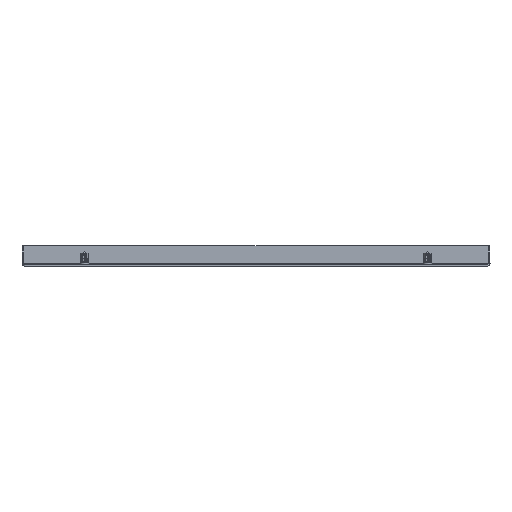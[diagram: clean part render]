
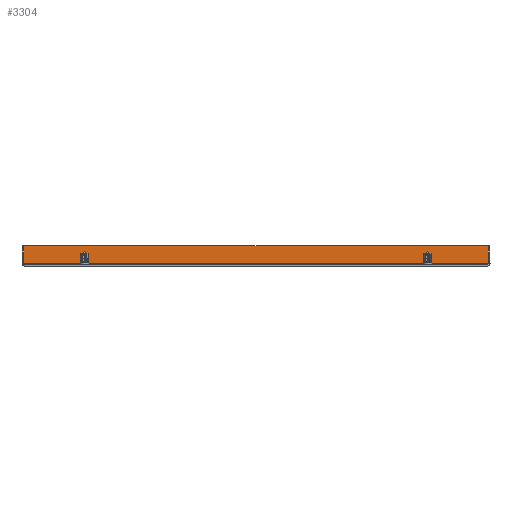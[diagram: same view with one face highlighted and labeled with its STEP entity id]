
A CAD part, front view. The second image highlights one B-rep face of the part: STEP entity #3304.
In plain terms, the highlighted planar face has unit normal (0, -1, 0).
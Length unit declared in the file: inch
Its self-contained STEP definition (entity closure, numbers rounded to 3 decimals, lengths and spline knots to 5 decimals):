
#114 = LINE ( 'NONE', #3682, #732 ) ;
#470 = LINE ( 'NONE', #2751, #621 ) ;
#621 = VECTOR ( 'NONE', #2912, 39.37008 ) ;
#696 = VECTOR ( 'NONE', #2407, 39.37008 ) ;
#732 = VECTOR ( 'NONE', #3801, 39.37008 ) ;
#783 = LINE ( 'NONE', #2417, #696 ) ;
#1050 = ORIENTED_EDGE ( 'NONE', *, *, #4587, .T. ) ;
#1053 = ORIENTED_EDGE ( 'NONE', *, *, #4290, .T. ) ;
#1054 = ORIENTED_EDGE ( 'NONE', *, *, #4885, .F. ) ;
#1059 = ORIENTED_EDGE ( 'NONE', *, *, #4635, .T. ) ;
#1581 = FACE_OUTER_BOUND ( 'NONE', #1690, .T. ) ;
#1690 = EDGE_LOOP ( 'NONE', ( #1050, #1053, #1054, #1059 ) ) ;
#2407 = DIRECTION ( 'NONE',  ( 1., 0., 0. ) ) ;
#2417 = CARTESIAN_POINT ( 'NONE',  ( -1.167, 31.735, -14.49732 ) ) ;
#2625 = CARTESIAN_POINT ( 'NONE',  ( -1.167, 31.735, 14.49732 ) ) ;
#2751 = CARTESIAN_POINT ( 'NONE',  ( -0.08, 31.735, -332.932 ) ) ;
#2912 = DIRECTION ( 'NONE',  ( 0., 0., 1. ) ) ;
#2998 = DIRECTION ( 'NONE',  ( -1., 0., 0. ) ) ;
#3304 = ADVANCED_FACE ( 'NONE', ( #1581 ), #5238, .T. ) ;
#3613 = CARTESIAN_POINT ( 'NONE',  ( -0.08, 31.735, 14.49732 ) ) ;
#3682 = CARTESIAN_POINT ( 'NONE',  ( -1.167, 31.735, -332.932 ) ) ;
#3801 = DIRECTION ( 'NONE',  ( 0., 0., 1. ) ) ;
#4117 = CARTESIAN_POINT ( 'NONE',  ( -1.167, 31.735, 14.49732 ) ) ;
#4173 = CARTESIAN_POINT ( 'NONE',  ( -0.08, 31.735, -14.49732 ) ) ;
#4175 = CARTESIAN_POINT ( 'NONE',  ( -1.167, 31.735, -14.49732 ) ) ;
#4290 = EDGE_CURVE ( 'NONE', #5244, #5595, #5770, .T. ) ;
#4587 = EDGE_CURVE ( 'NONE', #5543, #5244, #470, .T. ) ;
#4635 = EDGE_CURVE ( 'NONE', #5210, #5543, #783, .T. ) ;
#4647 = AXIS2_PLACEMENT_3D ( 'NONE', #5288, #5431, #5432 ) ;
#4885 = EDGE_CURVE ( 'NONE', #5210, #5595, #114, .T. ) ;
#5210 = VERTEX_POINT ( 'NONE', #4175 ) ;
#5238 = PLANE ( 'NONE',  #4647 ) ;
#5244 = VERTEX_POINT ( 'NONE', #3613 ) ;
#5288 = CARTESIAN_POINT ( 'NONE',  ( -1.167, 31.735, -332.932 ) ) ;
#5431 = DIRECTION ( 'NONE',  ( 0., -1., 0. ) ) ;
#5432 = DIRECTION ( 'NONE',  ( 1., 0., 0. ) ) ;
#5543 = VERTEX_POINT ( 'NONE', #4173 ) ;
#5595 = VERTEX_POINT ( 'NONE', #4117 ) ;
#5770 = LINE ( 'NONE', #2625, #5804 ) ;
#5804 = VECTOR ( 'NONE', #2998, 39.37008 ) ;
